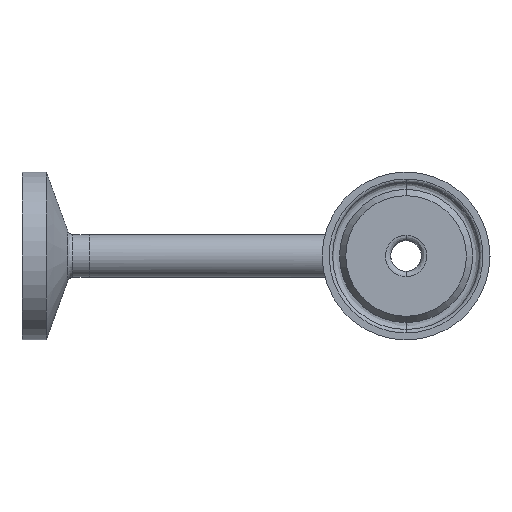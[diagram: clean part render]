
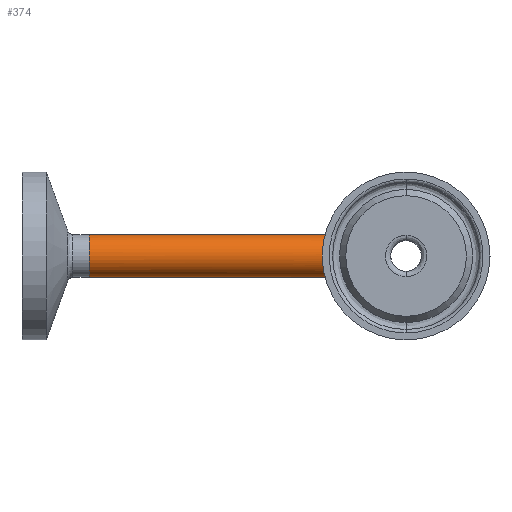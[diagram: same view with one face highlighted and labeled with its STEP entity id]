
A CAD part, left-side view. The second image highlights one B-rep face of the part: STEP entity #374.
In plain terms, the highlighted cylindrical face has radius 3.175 mm (diameter 6.35 mm), a partial arc.
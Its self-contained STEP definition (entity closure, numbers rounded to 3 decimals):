
#17 = ORIENTED_EDGE ( 'NONE', *, *, #77, .F. ) ;
#25 = ORIENTED_EDGE ( 'NONE', *, *, #193, .T. ) ;
#43 = DIRECTION ( 'NONE',  ( 0., -1., 0. ) ) ;
#77 = EDGE_CURVE ( 'NONE', #698, #2363, #1956, .T. ) ;
#85 = ORIENTED_EDGE ( 'NONE', *, *, #2626, .T. ) ;
#155 = DIRECTION ( 'NONE',  ( 0., 1., 0. ) ) ;
#174 = LINE ( 'NONE', #716, #1181 ) ;
#193 = EDGE_CURVE ( 'NONE', #698, #955, #174, .T. ) ;
#308 = CARTESIAN_POINT ( 'NONE',  ( 0., -500000., 0. ) ) ;
#369 = DIRECTION ( 'NONE',  ( 0., 0., 1. ) ) ;
#374 = ADVANCED_FACE ( 'NONE', ( #1846 ), #1640, .T. ) ;
#592 = VECTOR ( 'NONE', #1179, 1000. ) ;
#666 = AXIS2_PLACEMENT_3D ( 'NONE', #1314, #43, #1517 ) ;
#698 = VERTEX_POINT ( 'NONE', #1791 ) ;
#716 = CARTESIAN_POINT ( 'NONE',  ( 0., -500000., 3.175 ) ) ;
#743 = EDGE_LOOP ( 'NONE', ( #2323, #17, #25, #85 ) ) ;
#777 = DIRECTION ( 'NONE',  ( 0., 1., 0. ) ) ;
#787 = CARTESIAN_POINT ( 'NONE',  ( 0., -500000., -3.175 ) ) ;
#791 = AXIS2_PLACEMENT_3D ( 'NONE', #308, #155, #369 ) ;
#813 = CARTESIAN_POINT ( 'NONE',  ( 0., 0., 3.175 ) ) ;
#854 = CARTESIAN_POINT ( 'NONE',  ( -6.35, 6.35, 3.175 ) ) ;
#955 = VERTEX_POINT ( 'NONE', #1068 ) ;
#1003 = CARTESIAN_POINT ( 'NONE',  ( 0., 47.2, -3.175 ) ) ;
#1068 = CARTESIAN_POINT ( 'NONE',  ( 0., 47.2, 3.175 ) ) ;
#1127 = EDGE_CURVE ( 'NONE', #2363, #1901, #2205, .T. ) ;
#1179 = DIRECTION ( 'NONE',  ( 0., 1., 0. ) ) ;
#1181 = VECTOR ( 'NONE', #777, 1000. ) ;
#1314 = CARTESIAN_POINT ( 'NONE',  ( 0., 47.2, 0. ) ) ;
#1365 = CARTESIAN_POINT ( 'NONE',  ( 0., 0., -3.175 ) ) ;
#1381 = CARTESIAN_POINT ( 'NONE',  ( -6.35, 6.35, -3.175 ) ) ;
#1517 = DIRECTION ( 'NONE',  ( 0., 0., 1. ) ) ;
#1640 = CYLINDRICAL_SURFACE ( 'NONE', #791, 3.175 ) ;
#1791 = CARTESIAN_POINT ( 'NONE',  ( 0., 0., 3.175 ) ) ;
#1846 = FACE_OUTER_BOUND ( 'NONE', #743, .T. ) ;
#1901 = VERTEX_POINT ( 'NONE', #1003 ) ;
#1956 =( BOUNDED_CURVE ( )  B_SPLINE_CURVE ( 3, ( #813, #854, #1381, #2080 ),
 .UNSPECIFIED., .F., .T. ) 
 B_SPLINE_CURVE_WITH_KNOTS ( ( 4, 4 ),
 ( 4.712, 7.854 ),
 .UNSPECIFIED. ) 
 CURVE ( )  GEOMETRIC_REPRESENTATION_ITEM ( )  RATIONAL_B_SPLINE_CURVE ( ( 1., 0.333, 0.333, 1. ) ) 
 REPRESENTATION_ITEM ( '' )  );
#2080 = CARTESIAN_POINT ( 'NONE',  ( 0., 0., -3.175 ) ) ;
#2205 = LINE ( 'NONE', #787, #592 ) ;
#2323 = ORIENTED_EDGE ( 'NONE', *, *, #1127, .F. ) ;
#2363 = VERTEX_POINT ( 'NONE', #1365 ) ;
#2576 = CIRCLE ( 'NONE', #666, 3.175 ) ;
#2626 = EDGE_CURVE ( 'NONE', #955, #1901, #2576, .T. ) ;
